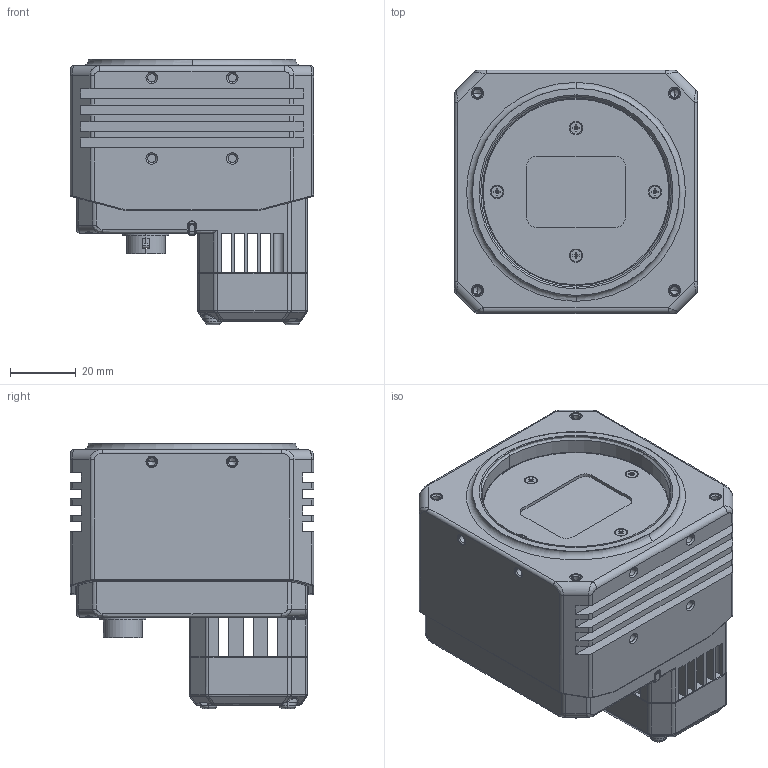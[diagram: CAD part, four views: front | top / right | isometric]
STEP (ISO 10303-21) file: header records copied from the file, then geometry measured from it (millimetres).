
FILE_DESCRIPTION((''),'2;1');
FILE_NAME('00-65MP-WZW-B_ASM_ASM_ASM','2021-01-18T16:20:09',('gengdawei'),(''),'CREO PARAMETRIC BY PTC INC, 2017260','CREO PARAMETRIC BY PTC INC, 2017260','');
FILE_SCHEMA(('CONFIG_CONTROL_DESIGN'));
Products named in the file (1): 00-65MP-WZW-B_ASM_ASM_ASM
Bounding box: 74 x 74 x 80.72 mm (x, y, z)
Volume: 259072 mm3; surface area: 73950.7 mm2
Topology: 2 solids, 83 shells, 3503 faces, 9429 edges, 6049 vertices
Faces by surface type: plane 1801, cylinder 1061, cone 213, bspline 212, extrusion 126, torus 82, revolution 4, sphere 4
Entity records: 128501 total; most frequent: CARTESIAN_POINT 41632, ORIENTED_EDGE 18546, DIRECTION 17294, EDGE_CURVE 9375, VERTEX_POINT 6049, AXIS2_PLACEMENT_3D 5766, VECTOR 5758, LINE 5632
